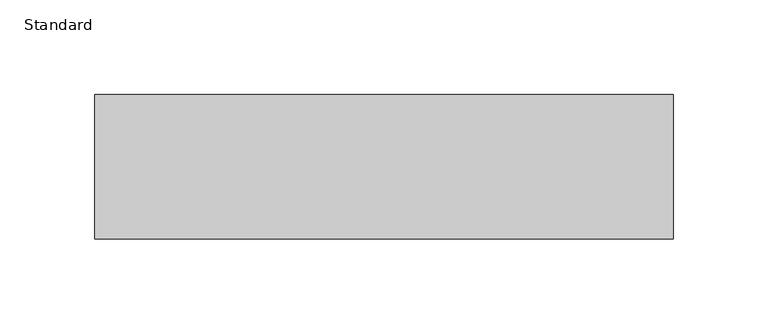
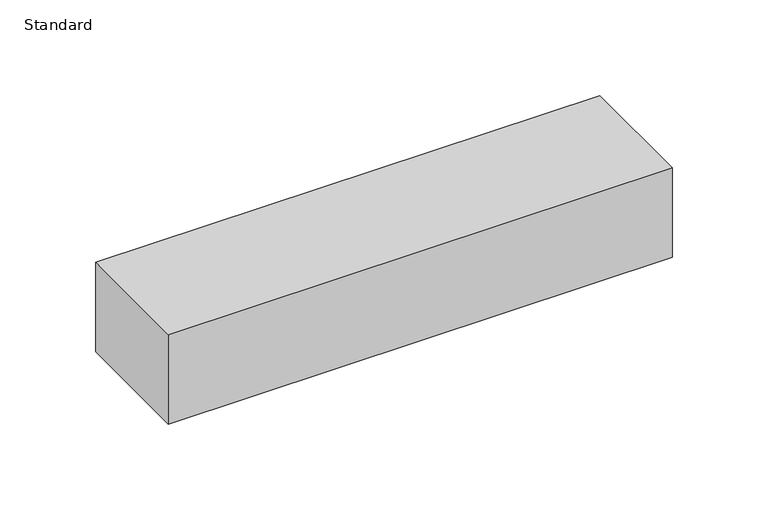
"""IFC4 building model written with IfcOpenShell, lengths in millimetres: proxy geometry, Raceway-ALA3800_Series-Wiremold-Steel : Standard."""

import ifcopenshell
import ifcopenshell.guid

model = None  # the IFC model being written
_history = None  # IfcOwnerHistory: only IFC2X3 demands one
_inside = {}  # id of a spatial element -> (the spatial element, [elements in it])
_under = {}  # id of a project, library or spatial element -> (it, [spatial elements below it])
_declared = {}  # id of a project -> (the project, [libraries it declares])
_typed = {}  # id of a type object -> (the type object, [elements of that type])
_made_of = {}  # id of a material, layer set ... -> (it, [elements and type objects made of it])


def new_model(schema):
    """Start an empty IFC model of exactly this schema.

    Asked for "IFC4X3", IfcOpenShell would pick the latest addendum, in which some entities
    have other attributes; the version numbers below select the first issue.
    IFC2X3 requires an IfcOwnerHistory on every rooted entity: one is made here for all.
    """
    global model, _history
    if schema == "IFC4X3":
        model = ifcopenshell.file(schema_version=(4, 3, 0, 0))
    else:
        model = ifcopenshell.file(schema=schema)
    _inside.clear()
    _under.clear()
    _declared.clear()
    _typed.clear()
    _made_of.clear()
    _history = None
    if model.schema == "IFC2X3":
        org = make("IfcOrganization", Name="unknown")
        user = make(
            "IfcPersonAndOrganization",
            ThePerson=make("IfcPerson", FamilyName="unknown"),
            TheOrganization=org,
        )
        app = make(
            "IfcApplication",
            ApplicationDeveloper=org,
            Version="unknown",
            ApplicationFullName="unknown",
            ApplicationIdentifier="unknown",
        )
        _history = make(
            "IfcOwnerHistory",
            OwningUser=user,
            OwningApplication=app,
            ChangeAction="ADDED",
            CreationDate=0,
        )
    return model


def make(cls, **values):
    """One entity of the class cls with the attributes given. An attribute that is None is left unset."""
    return model.create_entity(
        cls, **{name: value for name, value in values.items() if value is not None}
    )


def rooted(cls, **values):
    """An entity with a GlobalId (a new one), such as an element, a storey or a relation."""
    return make(cls, GlobalId=ifcopenshell.guid.new(), OwnerHistory=_history, **values)


def si_unit(unit_type, name, prefix=None):
    """IfcSIUnit, for example si_unit("LENGTHUNIT", "METRE", prefix="MILLI")."""
    return make("IfcSIUnit", UnitType=unit_type, Prefix=prefix, Name=name)


def assignment(units):
    """IfcUnitAssignment: the units of a project."""
    return None if units is None else make("IfcUnitAssignment", Units=units)


def point(xyz):
    """IfcCartesianPoint."""
    return None if xyz is None else make("IfcCartesianPoint", Coordinates=xyz)


def direction(xyz):
    """IfcDirection."""
    return None if xyz is None else make("IfcDirection", DirectionRatios=xyz)


def frame(location, z_axis=None, x_axis=None):
    """IfcAxis2Placement3D, a coordinate frame: its origin and axes. An axis left out is left unset."""
    return make(
        "IfcAxis2Placement3D",
        Location=point(location),
        Axis=direction(z_axis),
        RefDirection=direction(x_axis),
    )


def origin():
    """The frame at (0, 0, 0) with its axes left unset."""
    return frame((0.0, 0.0, 0.0))


def origin_with_axes():
    """The frame at (0, 0, 0) with the z axis (0, 0, 1) and the x axis (1, 0, 0) written out."""
    return frame((0.0, 0.0, 0.0), z_axis=(0.0, 0.0, 1.0), x_axis=(1.0, 0.0, 0.0))


def place(relative_to, where):
    """IfcLocalPlacement: puts the frame where relative to a parent placement (None: the world)."""
    return make(
        "IfcLocalPlacement", PlacementRelTo=relative_to, RelativePlacement=where
    )


def context(
    kind, dimensions, precision=None, world=None, true_north=None, identifier=None
):
    """IfcGeometricRepresentationContext, for example the 3D "Model" context."""
    return make(
        "IfcGeometricRepresentationContext",
        ContextIdentifier=identifier,
        ContextType=kind,
        CoordinateSpaceDimension=dimensions,
        Precision=precision,
        WorldCoordinateSystem=world,
        TrueNorth=true_north,
    )


def project(units=None, contexts=None):
    """IfcProject with its units and contexts."""
    return rooted(
        "IfcProject",
        Name="project",
        RepresentationContexts=contexts,
        UnitsInContext=assignment(units),
    )


def spatial(cls, under=None, at=None, **own):
    """A site, building, storey or space (cls), placed at a placement, below another one or the project."""
    s = rooted(cls, ObjectPlacement=at, **own)
    if under is not None:
        _under.setdefault(under.id(), (under, []))[1].append(s)
    return s


def polyline(points):
    """IfcPolyline through the points."""
    return make("IfcPolyline", Points=[point(p) for p in points])


def outline(outer, holes=None, kind="AREA"):
    """IfcArbitraryClosedProfileDef: a profile drawn as a closed curve; with holes, ...WithVoids."""
    if holes is None:
        return make("IfcArbitraryClosedProfileDef", ProfileType=kind, OuterCurve=outer)
    return make(
        "IfcArbitraryProfileDefWithVoids",
        ProfileType=kind,
        OuterCurve=outer,
        InnerCurves=holes,
    )


def extrude(swept, where, along, depth):
    """IfcExtrudedAreaSolid: the profile swept, set in the frame where, extruded along a direction by depth."""
    return make(
        "IfcExtrudedAreaSolid",
        SweptArea=swept,
        Position=where,
        ExtrudedDirection=direction(along),
        Depth=depth,
    )


def shape(context_of_items, identifier, shape_type, items):
    """IfcShapeRepresentation: the items that make up one representation, for example the "Body"."""
    return make(
        "IfcShapeRepresentation",
        ContextOfItems=context_of_items,
        RepresentationIdentifier=identifier,
        RepresentationType=shape_type,
        Items=items,
    )


def source(mapping_origin, context_of_items, identifier, shape_type, items):
    """IfcRepresentationMap: a shape defined once, which mapped items show again and again."""
    return make(
        "IfcRepresentationMap",
        MappingOrigin=mapping_origin,
        MappedRepresentation=shape(context_of_items, identifier, shape_type, items),
    )


def transform(
    local_origin,
    x_axis=None,
    y_axis=None,
    z_axis=None,
    scale=None,
    scale2=None,
    scale3=None,
    uniform=True,
):
    """IfcCartesianTransformationOperator3D, or its non-uniform kind. x_axis, y_axis, z_axis: its Axis1, 2, 3."""
    if uniform:
        return make(
            "IfcCartesianTransformationOperator3D",
            Axis1=direction(x_axis),
            Axis2=direction(y_axis),
            LocalOrigin=point(local_origin),
            Scale=scale,
            Axis3=direction(z_axis),
        )
    return make(
        "IfcCartesianTransformationOperator3DnonUniform",
        Axis1=direction(x_axis),
        Axis2=direction(y_axis),
        LocalOrigin=point(local_origin),
        Scale=scale,
        Axis3=direction(z_axis),
        Scale2=scale2,
        Scale3=scale3,
    )


def mapped(mapping_source, mapping_target):
    """IfcMappedItem: shows the shape of a source again, moved by a transform."""
    return make(
        "IfcMappedItem", MappingSource=mapping_source, MappingTarget=mapping_target
    )


def made_of(thing, what):
    """Note that an element or type object is made of a material, layer set ...; save() writes the relation."""
    if what is not None:
        _made_of.setdefault(what.id(), (what, []))[1].append(thing)
    return thing


def element(
    cls,
    number,
    at=None,
    inside=None,
    cuts=None,
    type_object=None,
    material=None,
    context=None,
    identifier="Body",
    shape_type=None,
    held_by="IfcProductDefinitionShape",
    body=None,
    shapes=None,
    **own,
):
    """One element of the class cls, such as IfcWall. Its Tag is "e" and its number.

    at: its placement. inside: the storey or other place that contains it. cuts: it is an
    opening in that element (IfcRelVoidsElement). A single representation is given by context,
    identifier, shape_type and body (its items); several are given by shapes. held_by: the class
    of the entity that holds the representations. save() writes the other relations.
    """
    e = rooted(cls, Tag="e%d" % number, ObjectPlacement=at, **own)
    if body is not None:
        shapes = [shape(context, identifier, shape_type, body)]
    if shapes is not None:
        e.Representation = make(held_by, Representations=shapes)
    if inside is not None:
        _inside.setdefault(inside.id(), (inside, []))[1].append(e)
    if cuts is not None:
        rooted(
            "IfcRelVoidsElement", RelatingBuildingElement=cuts, RelatedOpeningElement=e
        )
    if type_object is not None:
        _typed.setdefault(type_object.id(), (type_object, []))[1].append(e)
    return made_of(e, material)


def aggregate(whole, parts):
    """IfcRelAggregates: a whole, such as a stair, and the parts it consists of."""
    return rooted("IfcRelAggregates", RelatingObject=whole, RelatedObjects=parts)


def save(model, path):
    """Write the relations noted so far, then the file.

    IfcRelAggregates (storeys below a building ...), IfcRelContainedInSpatialStructure (elements
    in a storey), IfcRelDefinesByType, IfcRelAssociatesMaterial and IfcRelDeclares: one each for
    every whole, place, type object, material and project.
    """
    for whole, parts in _under.values():
        aggregate(whole, parts)
    for where, things in _inside.values():
        rooted(
            "IfcRelContainedInSpatialStructure",
            RelatedElements=things,
            RelatingStructure=where,
        )
    for kind, things in _typed.values():
        rooted("IfcRelDefinesByType", RelatedObjects=things, RelatingType=kind)
    for what, things in _made_of.values():
        rooted("IfcRelAssociatesMaterial", RelatedObjects=things, RelatingMaterial=what)
    for by, libraries in _declared.values():
        rooted("IfcRelDeclares", RelatingContext=by, RelatedDefinitions=libraries)
    model.write(path)


def standard_d824d0c1(model_context):
    return source(origin(), model_context, "Body", "SweptSolid", [
        extrude(outline(polyline([(304.8, 38.1), (304.8, -38.1), (0.0, -38.1), (0.0, 38.1), (304.8, 38.1)])), origin_with_axes(), (0.0, 0.0, 1.0), 57.15),
    ])


if __name__ == "__main__":
    model = new_model("IFC4")
    model_context = context("Model", 3, world=origin())
    ifc_project = project(units=[si_unit("LENGTHUNIT", "METRE", prefix="MILLI")], contexts=[model_context])
    site = spatial("IfcSite", under=ifc_project)
    building = spatial("IfcBuilding", under=site)
    placement = place(None, origin())
    standard_shape = standard_d824d0c1(model_context)
    element("IfcBuildingElementProxy", 1, Name="Raceway-ALA3800_Series-Wiremold-Steel : Standard", ObjectType="Raceway-ALA3800_Series-Wiremold-Steel : Standard", at=placement, inside=building, context=model_context, shape_type="MappedRepresentation", body=[
        mapped(standard_shape, transform((0.0, 0.0, 0.0), x_axis=(1.0, 0.0, 0.0), y_axis=(0.0, 1.0, 0.0), z_axis=(0.0, 0.0, 1.0))),
    ])
    save(model, "model.ifc")
